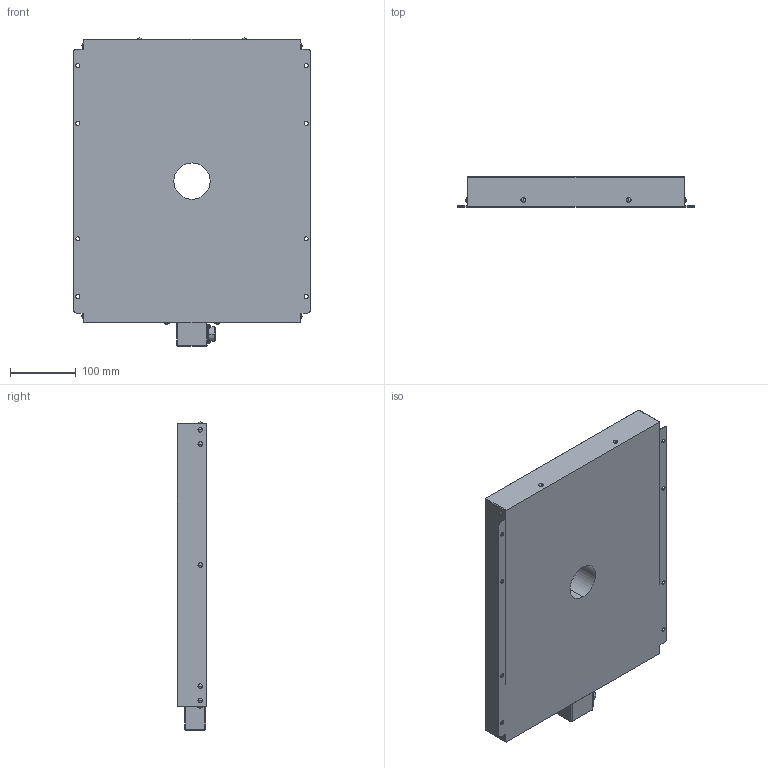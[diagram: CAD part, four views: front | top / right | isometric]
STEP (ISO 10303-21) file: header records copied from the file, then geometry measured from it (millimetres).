
FILE_DESCRIPTION (( 'STEP AP214' ), '1' );
FILE_NAME ('HDSBPA-400x300_-24-55D.STEP', '2023-06-01T07:00:49', ( '' ), ( '' ), 'SwSTEP 2.0', 'SolidWorks 2022', '' );
FILE_SCHEMA (( 'AUTOMOTIVE_DESIGN' ));
Length unit declared in the file: millimetre
Products named in the file (1): HDSBPA-400x300_-24-55D
Bounding box: 360 x 45 x 466.9 mm (x, y, z)
Volume: 6227730.5 mm3; surface area: 386800.8 mm2
Topology: 1 solids, 1 shells, 184 faces, 496 edges, 288 vertices
Faces by surface type: cylinder 90, sphere 52, plane 32, torus 8, cone 2
Entity records: 5344 total; most frequent: DIRECTION 1048, CARTESIAN_POINT 873, ORIENTED_EDGE 844, AXIS2_PLACEMENT_3D 441, EDGE_CURVE 422, VERTEX_POINT 266, CIRCLE 256, EDGE_LOOP 228
